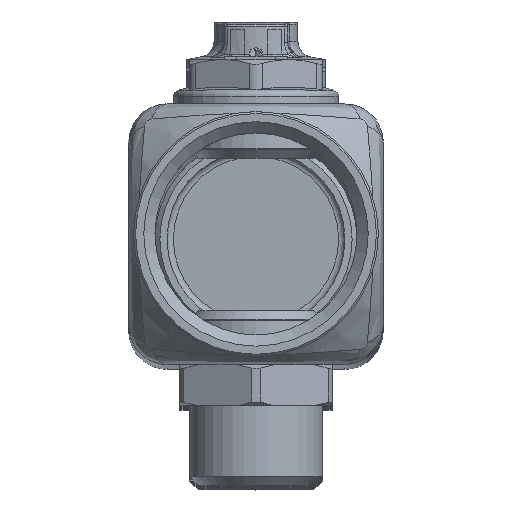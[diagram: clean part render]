
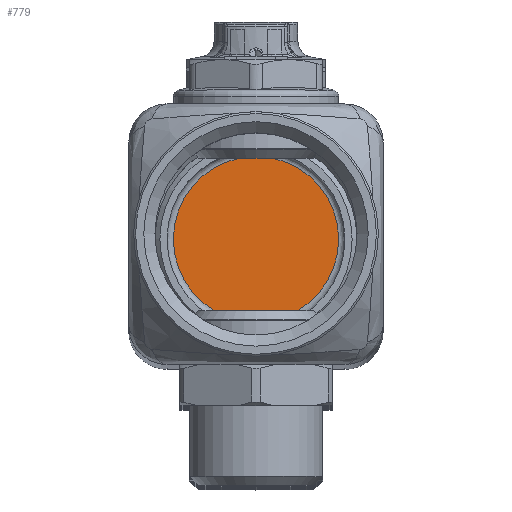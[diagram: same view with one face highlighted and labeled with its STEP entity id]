
A CAD part, top view. The second image highlights one B-rep face of the part: STEP entity #779.
In plain terms, the highlighted planar face has unit normal (0, 0, 1).
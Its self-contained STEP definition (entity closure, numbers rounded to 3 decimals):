
#779=ADVANCED_FACE('',(#9887),#9889,.T.);
#9887=FACE_BOUND('',#9888,.T.);
#9888=EDGE_LOOP('',(#13867));
#9889=PLANE('',#9890);
#9890=AXIS2_PLACEMENT_3D('',#9891,#9892,#9893);
#9891=CARTESIAN_POINT('',(0.,0.,-234.75));
#9892=DIRECTION('',(0.,0.,1.));
#9893=DIRECTION('',(1.,0.,0.));
#13867=ORIENTED_EDGE('',*,*,#16971,.T.);
#16971=EDGE_CURVE('',#20373,#20373,#20374,.T.);
#20373=VERTEX_POINT('',#32247);
#20374=CIRCLE('',#32248,13.);
#32247=CARTESIAN_POINT('',(13.,0.,-234.75));
#32248=AXIS2_PLACEMENT_3D('',#32249,#32250,#32251);
#32249=CARTESIAN_POINT('',(0.,0.,-234.75));
#32250=DIRECTION('',(0.,0.,1.));
#32251=DIRECTION('',(1.,0.,0.));
